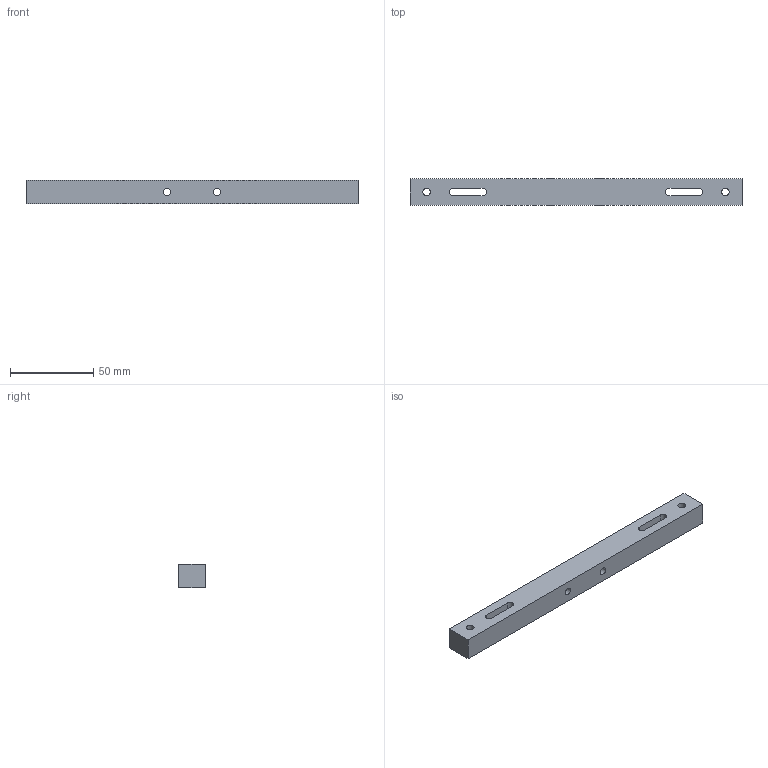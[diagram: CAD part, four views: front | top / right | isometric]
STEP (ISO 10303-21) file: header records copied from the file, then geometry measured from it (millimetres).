
FILE_DESCRIPTION(('Open CASCADE Model'),'2;1');
FILE_NAME('Open CASCADE Shape Model','2026-10-26T17:58:52',('Author'),( 'Open CASCADE'),'Open CASCADE STEP processor 7.9','Open CASCADE 7.9' ,'Unknown');
FILE_SCHEMA(('AUTOMOTIVE_DESIGN { 1 0 10303 214 1 1 1 1 }'));
Length unit declared in the file: millimetre
Products named in the file (1): Open CASCADE STEP translator 7.9 11
Bounding box: 200 x 16 x 14 mm (x, y, z)
Volume: 41132.4 mm3; surface area: 14185.2 mm2
Topology: 1 solids, 1 shells, 18 faces, 48 edges, 32 vertices
Faces by surface type: plane 10, cylinder 8
Full cylindrical faces by diameter (mm): 4.5 x4
Entity records: 1234 total; most frequent: CARTESIAN_POINT 259, DIRECTION 174, ORIENTED_EDGE 96, LINE 96, VECTOR 96, PCURVE 96, DEFINITIONAL_REPRESENTATION 96, EDGE_CURVE 48
